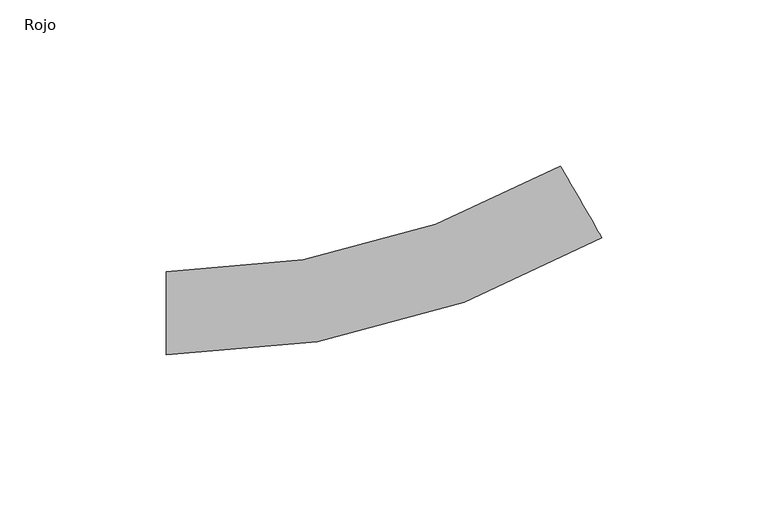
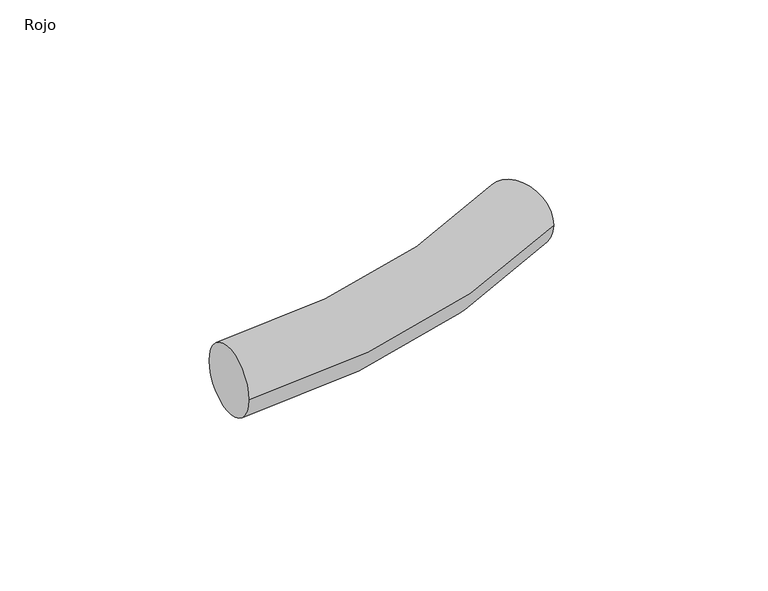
"""IFC4 building model written with IfcOpenShell, lengths in millimetres: pipe fitting geometry, AmancoWavin_UnionesdeTubería_TigrisFlexTuberíaFlexible : Rojo."""

import ifcopenshell
import ifcopenshell.guid

model = None  # the IFC model being written
_history = None  # IfcOwnerHistory: only IFC2X3 demands one
_inside = {}  # id of a spatial element -> (the spatial element, [elements in it])
_under = {}  # id of a project, library or spatial element -> (it, [spatial elements below it])
_declared = {}  # id of a project -> (the project, [libraries it declares])
_typed = {}  # id of a type object -> (the type object, [elements of that type])
_made_of = {}  # id of a material, layer set ... -> (it, [elements and type objects made of it])


def new_model(schema):
    """Start an empty IFC model of exactly this schema.

    Asked for "IFC4X3", IfcOpenShell would pick the latest addendum, in which some entities
    have other attributes; the version numbers below select the first issue.
    IFC2X3 requires an IfcOwnerHistory on every rooted entity: one is made here for all.
    """
    global model, _history
    if schema == "IFC4X3":
        model = ifcopenshell.file(schema_version=(4, 3, 0, 0))
    else:
        model = ifcopenshell.file(schema=schema)
    _inside.clear()
    _under.clear()
    _declared.clear()
    _typed.clear()
    _made_of.clear()
    _history = None
    if model.schema == "IFC2X3":
        org = make("IfcOrganization", Name="unknown")
        user = make(
            "IfcPersonAndOrganization",
            ThePerson=make("IfcPerson", FamilyName="unknown"),
            TheOrganization=org,
        )
        app = make(
            "IfcApplication",
            ApplicationDeveloper=org,
            Version="unknown",
            ApplicationFullName="unknown",
            ApplicationIdentifier="unknown",
        )
        _history = make(
            "IfcOwnerHistory",
            OwningUser=user,
            OwningApplication=app,
            ChangeAction="ADDED",
            CreationDate=0,
        )
    return model


def make(cls, **values):
    """One entity of the class cls with the attributes given. An attribute that is None is left unset."""
    return model.create_entity(
        cls, **{name: value for name, value in values.items() if value is not None}
    )


def rooted(cls, **values):
    """An entity with a GlobalId (a new one), such as an element, a storey or a relation."""
    return make(cls, GlobalId=ifcopenshell.guid.new(), OwnerHistory=_history, **values)


def si_unit(unit_type, name, prefix=None):
    """IfcSIUnit, for example si_unit("LENGTHUNIT", "METRE", prefix="MILLI")."""
    return make("IfcSIUnit", UnitType=unit_type, Prefix=prefix, Name=name)


def assignment(units):
    """IfcUnitAssignment: the units of a project."""
    return None if units is None else make("IfcUnitAssignment", Units=units)


def point(xyz):
    """IfcCartesianPoint."""
    return None if xyz is None else make("IfcCartesianPoint", Coordinates=xyz)


def direction(xyz):
    """IfcDirection."""
    return None if xyz is None else make("IfcDirection", DirectionRatios=xyz)


def frame(location, z_axis=None, x_axis=None):
    """IfcAxis2Placement3D, a coordinate frame: its origin and axes. An axis left out is left unset."""
    return make(
        "IfcAxis2Placement3D",
        Location=point(location),
        Axis=direction(z_axis),
        RefDirection=direction(x_axis),
    )


def origin():
    """The frame at (0, 0, 0) with its axes left unset."""
    return frame((0.0, 0.0, 0.0))


def place(relative_to, where):
    """IfcLocalPlacement: puts the frame where relative to a parent placement (None: the world)."""
    return make(
        "IfcLocalPlacement", PlacementRelTo=relative_to, RelativePlacement=where
    )


def context(
    kind, dimensions, precision=None, world=None, true_north=None, identifier=None
):
    """IfcGeometricRepresentationContext, for example the 3D "Model" context."""
    return make(
        "IfcGeometricRepresentationContext",
        ContextIdentifier=identifier,
        ContextType=kind,
        CoordinateSpaceDimension=dimensions,
        Precision=precision,
        WorldCoordinateSystem=world,
        TrueNorth=true_north,
    )


def project(units=None, contexts=None):
    """IfcProject with its units and contexts."""
    return rooted(
        "IfcProject",
        Name="project",
        RepresentationContexts=contexts,
        UnitsInContext=assignment(units),
    )


def spatial(cls, under=None, at=None, **own):
    """A site, building, storey or space (cls), placed at a placement, below another one or the project."""
    s = rooted(cls, ObjectPlacement=at, **own)
    if under is not None:
        _under.setdefault(under.id(), (under, []))[1].append(s)
    return s


def circle_curve(where, radius):
    """IfcCircle in the frame where."""
    return make("IfcCircle", Position=where, Radius=radius)


def ellipse_curve(where, semi_axis1, semi_axis2):
    """IfcEllipse in the frame where."""
    return make(
        "IfcEllipse", Position=where, SemiAxis1=semi_axis1, SemiAxis2=semi_axis2
    )


def trimmed(basis, trim1, trim2, sense, master):
    """IfcTrimmedCurve: the piece of a basis curve between two trims."""
    return make(
        "IfcTrimmedCurve",
        BasisCurve=basis,
        Trim1=trim1,
        Trim2=trim2,
        SenseAgreement=sense,
        MasterRepresentation=master,
    )


def shape(context_of_items, identifier, shape_type, items):
    """IfcShapeRepresentation: the items that make up one representation, for example the "Body"."""
    return make(
        "IfcShapeRepresentation",
        ContextOfItems=context_of_items,
        RepresentationIdentifier=identifier,
        RepresentationType=shape_type,
        Items=items,
    )


def source(mapping_origin, context_of_items, identifier, shape_type, items):
    """IfcRepresentationMap: a shape defined once, which mapped items show again and again."""
    return make(
        "IfcRepresentationMap",
        MappingOrigin=mapping_origin,
        MappedRepresentation=shape(context_of_items, identifier, shape_type, items),
    )


def transform(
    local_origin,
    x_axis=None,
    y_axis=None,
    z_axis=None,
    scale=None,
    scale2=None,
    scale3=None,
    uniform=True,
):
    """IfcCartesianTransformationOperator3D, or its non-uniform kind. x_axis, y_axis, z_axis: its Axis1, 2, 3."""
    if uniform:
        return make(
            "IfcCartesianTransformationOperator3D",
            Axis1=direction(x_axis),
            Axis2=direction(y_axis),
            LocalOrigin=point(local_origin),
            Scale=scale,
            Axis3=direction(z_axis),
        )
    return make(
        "IfcCartesianTransformationOperator3DnonUniform",
        Axis1=direction(x_axis),
        Axis2=direction(y_axis),
        LocalOrigin=point(local_origin),
        Scale=scale,
        Axis3=direction(z_axis),
        Scale2=scale2,
        Scale3=scale3,
    )


def mapped(mapping_source, mapping_target):
    """IfcMappedItem: shows the shape of a source again, moved by a transform."""
    return make(
        "IfcMappedItem", MappingSource=mapping_source, MappingTarget=mapping_target
    )


def made_of(thing, what):
    """Note that an element or type object is made of a material, layer set ...; save() writes the relation."""
    if what is not None:
        _made_of.setdefault(what.id(), (what, []))[1].append(thing)
    return thing


def element(
    cls,
    number,
    at=None,
    inside=None,
    cuts=None,
    type_object=None,
    material=None,
    context=None,
    identifier="Body",
    shape_type=None,
    held_by="IfcProductDefinitionShape",
    body=None,
    shapes=None,
    **own,
):
    """One element of the class cls, such as IfcWall. Its Tag is "e" and its number.

    at: its placement. inside: the storey or other place that contains it. cuts: it is an
    opening in that element (IfcRelVoidsElement). A single representation is given by context,
    identifier, shape_type and body (its items); several are given by shapes. held_by: the class
    of the entity that holds the representations. save() writes the other relations.
    """
    e = rooted(cls, Tag="e%d" % number, ObjectPlacement=at, **own)
    if body is not None:
        shapes = [shape(context, identifier, shape_type, body)]
    if shapes is not None:
        e.Representation = make(held_by, Representations=shapes)
    if inside is not None:
        _inside.setdefault(inside.id(), (inside, []))[1].append(e)
    if cuts is not None:
        rooted(
            "IfcRelVoidsElement", RelatingBuildingElement=cuts, RelatedOpeningElement=e
        )
    if type_object is not None:
        _typed.setdefault(type_object.id(), (type_object, []))[1].append(e)
    return made_of(e, material)


def aggregate(whole, parts):
    """IfcRelAggregates: a whole, such as a stair, and the parts it consists of."""
    return rooted("IfcRelAggregates", RelatingObject=whole, RelatedObjects=parts)


def save(model, path):
    """Write the relations noted so far, then the file.

    IfcRelAggregates (storeys below a building ...), IfcRelContainedInSpatialStructure (elements
    in a storey), IfcRelDefinesByType, IfcRelAssociatesMaterial and IfcRelDeclares: one each for
    every whole, place, type object, material and project.
    """
    for whole, parts in _under.values():
        aggregate(whole, parts)
    for where, things in _inside.values():
        rooted(
            "IfcRelContainedInSpatialStructure",
            RelatedElements=things,
            RelatingStructure=where,
        )
    for kind, things in _typed.values():
        rooted("IfcRelDefinesByType", RelatedObjects=things, RelatingType=kind)
    for what, things in _made_of.values():
        rooted("IfcRelAssociatesMaterial", RelatedObjects=things, RelatingMaterial=what)
    for by, libraries in _declared.values():
        rooted("IfcRelDeclares", RelatingContext=by, RelatedDefinitions=libraries)
    model.write(path)


def plane_surface(at):
    """IfcPlane: the flat surface through the origin of the frame at, square to its z axis."""
    return make("IfcPlane", Position=at)


def revolved_surface(curve, axis_point, axis_direction):
    """IfcSurfaceOfRevolution: the curve turned about the line through axis_point along axis_direction."""
    return make(
        "IfcSurfaceOfRevolution",
        SweptCurve=make("IfcArbitraryOpenProfileDef", ProfileType="CURVE", Curve=curve),
        AxisPosition=make("IfcAxis1Placement", Location=point(axis_point), Axis=direction(axis_direction)),
    )


def advanced_brep(points, edges, surfaces, faces):
    """IfcAdvancedBrep: a solid bounded by faces that lie on surfaces and meet in shared edges.

    An edge is (start, end): straight between two places in points (the first is 0);
    or (start, end, curve); or (start, end, curve, False) where it runs against its curve.
    A face is (place in surfaces, loops), or (place, loops, False) where it looks against
    its surface's normal. A loop lists edges by number (the first is 1), with a minus sign
    where the edge is run from its end to its start. The first loop is the outer one.
    """
    corners = [point(p) for p in points]
    vertices = [make("IfcVertexPoint", VertexGeometry=c) for c in corners]
    made = []
    for start, end, *more in edges:
        made.append(
            make(
                "IfcEdgeCurve",
                EdgeStart=vertices[start],
                EdgeEnd=vertices[end],
                EdgeGeometry=more[0] if more else make("IfcPolyline", Points=[corners[start], corners[end]]),
                SameSense=more[1] if len(more) > 1 else True,
            )
        )
    hull = []
    for where, loops, *sense in faces:
        bounds = []
        for j, loop in enumerate(loops):
            ring = [make("IfcOrientedEdge", EdgeElement=made[abs(k) - 1], Orientation=k > 0) for k in loop]
            bounds.append(
                make(
                    "IfcFaceOuterBound" if j == 0 else "IfcFaceBound",
                    Bound=make("IfcEdgeLoop", EdgeList=ring),
                    Orientation=True,
                )
            )
        hull.append(make("IfcAdvancedFace", Bounds=bounds, FaceSurface=surfaces[where], SameSense=sense[0] if sense else True))
    return make("IfcAdvancedBrep", Outer=make("IfcClosedShell", CfsFaces=hull))


def rojo_d383c2d2(model_context):
    return source(origin(), model_context, "Body", "AdvancedBrep", [
        advanced_brep(
        [(-66.9872981, -12.5, 0.0), (-66.9872981, 12.5, 0.0), (64.2627019, 22.6683315, 0.0), (51.7627019, 44.3189666, 0.0)],
        [
            (0, 1, circle_curve(frame((-66.9872981, 0.0, 0.0), z_axis=(-1.0, 0.0, 0.0), x_axis=(0.0, 1.0, 0.0)), 12.5)),
            (1, 0, circle_curve(frame((-66.9872981, 0.0, 0.0), z_axis=(-1.0, 0.0, 0.0), x_axis=(0.0, 1.0, 0.0)), 12.5)),
            (2, 3, circle_curve(frame((58.0127019, 33.4936491, 0.0), z_axis=(0.8660254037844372, 0.5000000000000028, 0.0), x_axis=(-0.5000000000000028, 0.8660254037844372, 0.0)), 12.5)),
            (3, 2, circle_curve(frame((58.0127019, 33.4936491, 0.0), z_axis=(0.8660254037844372, 0.5000000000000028, 0.0), x_axis=(-0.5000000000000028, 0.8660254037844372, 0.0)), 12.5)),
            (3, 1, circle_curve(frame((-66.9872981, 250.0, 0.0), z_axis=(0.0, 0.0, -1.0), x_axis=(0.0, -1.0, 0.0)), 237.5)),
            (0, 2, circle_curve(frame((-66.9872981, 250.0, 0.0), z_axis=(0.0, 0.0, 1.0), x_axis=(0.0, -1.0, 0.0)), 262.5)),
        ],
        [
            plane_surface(frame((-66.9872981, 0.0, 0.0), z_axis=(-1.0, 0.0, 0.0), x_axis=(0.0, 0.0, 1.0))),
            plane_surface(frame((58.0127019, 33.4936491, 0.0), z_axis=(0.8660254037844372, 0.5000000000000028, 0.0), x_axis=(0.0, 0.0, 1.0))),
            revolved_surface(trimmed(ellipse_curve(frame((-66.9872981, 0.0, 0.0), z_axis=(-1.0, 0.0, 0.0), x_axis=(0.0, 1.0, 0.0)), 12.5, 12.5), [point((-66.9872981, -12.5, 0.0))], [point((-66.9872981, 12.5, 0.0))], True, "CARTESIAN"), (-66.9872981, 250.0, 0.0), (0.0, 0.0, 1.0)),
            revolved_surface(trimmed(ellipse_curve(frame((-66.9872981, 0.0, 0.0), z_axis=(-1.0, 0.0, 0.0), x_axis=(0.0, 1.0, 0.0)), 12.5, 12.5), [point((-66.9872981, 12.5, 0.0))], [point((-66.9872981, -12.5, 0.0))], True, "CARTESIAN"), (-66.9872981, 250.0, 0.0), (0.0, 0.0, 1.0)),
        ],
        [
            (0, [[1, 2]]),
            (1, [[3, 4]]),
            (2, [[5, -1, 6, -4]]),
            (3, [[-6, -2, -5, -3]]),
        ],
    ),
    ])


if __name__ == "__main__":
    model = new_model("IFC4")
    model_context = context("Model", 3, world=origin())
    ifc_project = project(units=[si_unit("LENGTHUNIT", "METRE", prefix="MILLI")], contexts=[model_context])
    site = spatial("IfcSite", under=ifc_project)
    building = spatial("IfcBuilding", under=site)
    placement = place(None, origin())
    rojo_shape = rojo_d383c2d2(model_context)
    element("IfcPipeFitting", 1, ObjectType="AmancoWavin_UnionesdeTubería_TigrisFlexTuberíaFlexible : Rojo", at=placement, inside=building, context=model_context, shape_type="MappedRepresentation", body=[
        mapped(rojo_shape, transform((0.0, 0.0, 0.0), x_axis=(1.0, 0.0, 0.0), y_axis=(0.0, 1.0, 0.0), z_axis=(0.0, 0.0, 1.0))),
    ])
    save(model, "model.ifc")
